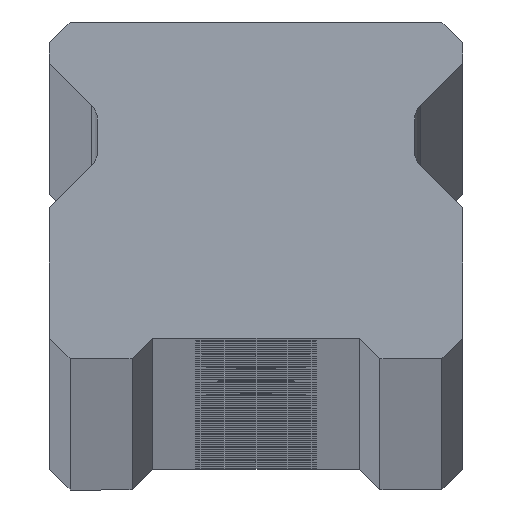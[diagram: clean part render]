
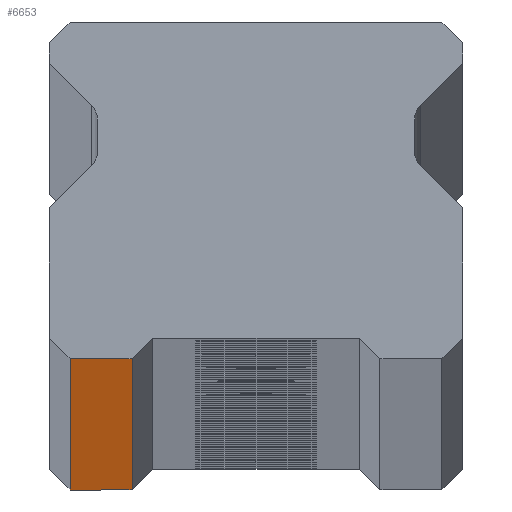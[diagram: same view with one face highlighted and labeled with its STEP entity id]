
A CAD part, top view. The second image highlights one B-rep face of the part: STEP entity #6653.
In plain terms, the highlighted planar face has unit normal (0, -1, 0).
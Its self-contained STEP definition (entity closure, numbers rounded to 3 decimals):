
#166 = CARTESIAN_POINT ( 'NONE',  ( 10., 0., 1820. ) ) ;
#214 = ORIENTED_EDGE ( 'NONE', *, *, #766, .T. ) ;
#392 = ORIENTED_EDGE ( 'NONE', *, *, #2390, .T. ) ;
#766 = EDGE_CURVE ( 'NONE', #4282, #9700, #4355, .T. ) ;
#961 = VERTEX_POINT ( 'NONE', #3418 ) ;
#1267 = DIRECTION ( 'NONE',  ( 0., 0., -1. ) ) ;
#1544 = LINE ( 'NONE', #2558, #4765 ) ;
#1870 = VERTEX_POINT ( 'NONE', #7774 ) ;
#1961 = CARTESIAN_POINT ( 'NONE',  ( -6., 0., -1820. ) ) ;
#2059 = CARTESIAN_POINT ( 'NONE',  ( -9., 0., 1820. ) ) ;
#2275 = VECTOR ( 'NONE', #5520, 1000. ) ;
#2339 = ORIENTED_EDGE ( 'NONE', *, *, #3970, .T. ) ;
#2390 = EDGE_CURVE ( 'NONE', #1870, #4282, #9231, .T. ) ;
#2558 = CARTESIAN_POINT ( 'NONE',  ( -6., 0., -1820. ) ) ;
#2636 = VECTOR ( 'NONE', #7409, 1000. ) ;
#3355 = DIRECTION ( 'NONE',  ( 0., 0., 1. ) ) ;
#3418 = CARTESIAN_POINT ( 'NONE',  ( -6., 0., 1820. ) ) ;
#3532 = CARTESIAN_POINT ( 'NONE',  ( 10., 0., 1820. ) ) ;
#3714 = EDGE_LOOP ( 'NONE', ( #214, #2339, #4925, #392 ) ) ;
#3970 = EDGE_CURVE ( 'NONE', #9700, #961, #1544, .T. ) ;
#4282 = VERTEX_POINT ( 'NONE', #8363 ) ;
#4355 = LINE ( 'NONE', #8719, #2275 ) ;
#4765 = VECTOR ( 'NONE', #3355, 1000. ) ;
#4925 = ORIENTED_EDGE ( 'NONE', *, *, #7810, .F. ) ;
#5520 = DIRECTION ( 'NONE',  ( 1., 0., 0. ) ) ;
#6319 = FACE_OUTER_BOUND ( 'NONE', #3714, .T. ) ;
#6460 = DIRECTION ( 'NONE',  ( 0., 1., 0. ) ) ;
#6653 = ADVANCED_FACE ( 'NONE', ( #6319 ), #7309, .F. ) ;
#7309 = PLANE ( 'NONE',  #8457 ) ;
#7409 = DIRECTION ( 'NONE',  ( 1., 0., 0. ) ) ;
#7774 = CARTESIAN_POINT ( 'NONE',  ( -9., 0., 1820. ) ) ;
#7810 = EDGE_CURVE ( 'NONE', #1870, #961, #9178, .T. ) ;
#8071 = DIRECTION ( 'NONE',  ( -1., 0., 0. ) ) ;
#8363 = CARTESIAN_POINT ( 'NONE',  ( -9., 0., -1820. ) ) ;
#8457 = AXIS2_PLACEMENT_3D ( 'NONE', #166, #6460, #8071 ) ;
#8719 = CARTESIAN_POINT ( 'NONE',  ( 10., 0., -1820. ) ) ;
#9178 = LINE ( 'NONE', #3532, #2636 ) ;
#9231 = LINE ( 'NONE', #2059, #9735 ) ;
#9700 = VERTEX_POINT ( 'NONE', #1961 ) ;
#9735 = VECTOR ( 'NONE', #1267, 1000. ) ;
